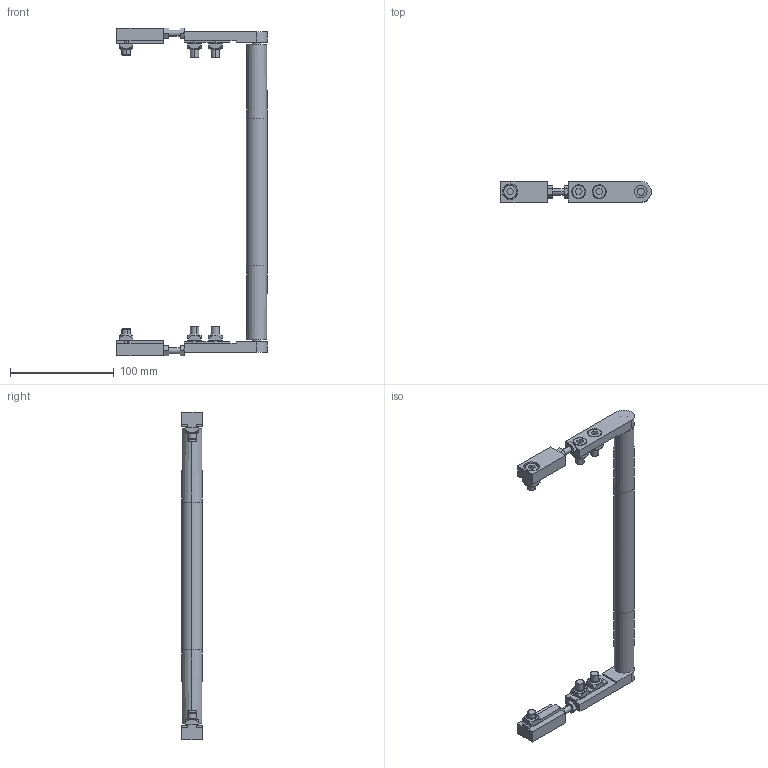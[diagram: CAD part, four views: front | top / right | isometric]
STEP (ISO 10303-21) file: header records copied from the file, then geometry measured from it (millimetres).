
FILE_DESCRIPTION (( 'STEP AP214' ), '1' );
FILE_NAME ('084.020.KI.265.STEP', '2021-02-05T13:56:05', ( '' ), ( '' ), 'SwSTEP 2.0', 'SolidWorks 2018', '' );
FILE_SCHEMA (( 'AUTOMOTIVE_DESIGN' ));
Length unit declared in the file: millimetre
Products named in the file (10): 084.800.007; 084.800.008; 084.802.008; 084.800.002; 084.020.KI.265; Circlip DIN 471 - 8 x 0.8_Circlip DIN 471 - 8 x 0.8; 084.301.000 VITI ALUSIC_084.301.003; 084.800.012; 084.302.000 DADI ALUSIC 13x13-1_084.302.004; 084.800.020.265
Assembly tree (27 placements, depth 2):
  084.020.KI.265
    084.802.008  x2
    084.301.000 VITI ALUSIC_084.301.003  x6
    084.302.000 DADI ALUSIC 13x13-1_084.302.004  x6
    084.800.020.265
    084.800.012  x4
    084.800.008  x2
    084.800.002  x2
    084.800.007  x2
    Circlip DIN 471 - 8 x 0.8_Circlip DIN 471 - 8 x 0.8  x2
Bounding box: 145 x 20 x 316 mm (x, y, z)
Volume: 109059.4 mm3; surface area: 72830.5 mm2
Topology: 31 solids, 31 shells, 664 faces, 1564 edges, 998 vertices
Faces by surface type: plane 262, cylinder 210, torus 112, cone 56, bspline 24
Entity records: 7452 total; most frequent: CARTESIAN_POINT 1561, DIRECTION 1208, ORIENTED_EDGE 1048, EDGE_CURVE 524, AXIS2_PLACEMENT_3D 474, VERTEX_POINT 337, LINE 260, VECTOR 260
